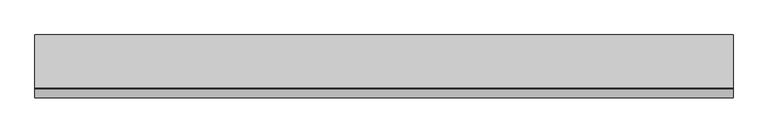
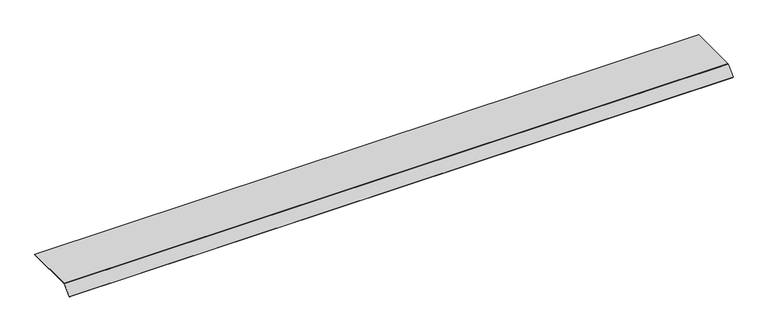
"""IFC4 building model written with IfcOpenShell, lengths in millimetres: proxy geometry, Electrical_Installation_Hager_Blank-Cover-800mm-Single-Sided-Height-70mm : Electrical_Installation_Hager_Blank-Cover-800mm-Single-Sided-Height-70mm."""

from ifc_helpers import new_model, si_unit, point, frame, frame_2d, origin, place, context, project, spatial, polyline, circle_curve, trimmed, segment, composite_curve, outline, extrude, source, transform, mapped, element, save


def electrical_fixtures_8222793d(model_context):
    return source(origin(), model_context, "Body", "SweptSolid", [
        extrude(outline(composite_curve([segment(polyline([(200.0, 40.5), (200.0, 37.5), (-199.8229541, 37.5)]), True, "CONTINUOUS"), segment(trimmed(circle_curve(frame_2d((-199.8229541, 36.0725733)), 1.4274267), [point((-199.8229541, 37.5))], [point((-200.8322972, 37.0819164))], True, "CARTESIAN"), True, "CONTINUOUS"), segment(polyline([(-200.8322972, 37.0819164), (-268.6627596, -30.7485461), (-270.78408, -28.6272257), (-202.8206472, 39.336207)]), True, "CONTINUOUS"), segment(trimmed(circle_curve(frame_2d((-200.0110025, 36.5265623)), 3.9734377), [point((-202.8206472, 39.336207))], [point((-200.0110025, 40.5))], False, "CARTESIAN"), True, "CONTINUOUS"), segment(polyline([(-200.0110025, 40.5), (200.0, 40.5)]), True, "CONTINUOUS")], self_intersect=False)), frame((0.0, 0.0, 0.0), z_axis=(1.0, 0.0, 0.0), x_axis=(0.0, 1.0, 0.0)), (0.0, 0.0, 1.0), 5236.9329721),
    ])


if __name__ == "__main__":
    model = new_model("IFC4")
    model_context = context("Model", 3, world=origin())
    ifc_project = project(units=[si_unit("LENGTHUNIT", "METRE", prefix="MILLI")], contexts=[model_context])
    site = spatial("IfcSite", under=ifc_project)
    building = spatial("IfcBuilding", under=site)
    placement = place(None, origin())
    electrical_fixtures_shape = electrical_fixtures_8222793d(model_context)
    element("IfcBuildingElementProxy", 1, Name="Electrical_Installation_Hager_Blank-Cover-800mm-Single-Sided-Height-70mm : Electrical_Installation_Hager_Blank-Cover-800mm-Single-Sided-Height-70mm", ObjectType="Electrical_Installation_Hager_Blank-Cover-800mm-Single-Sided-Height-70mm : Electrical_Installation_Hager_Blank-Cover-800mm-Single-Sided-Height-70mm", at=placement, inside=building, context=model_context, shape_type="MappedRepresentation", body=[
        mapped(electrical_fixtures_shape, transform((0.0, 0.0, 0.0), x_axis=(1.0, 0.0, 0.0), y_axis=(0.0, 1.0, 0.0), z_axis=(0.0, 0.0, 1.0))),
    ])
    save(model, "model.ifc")
